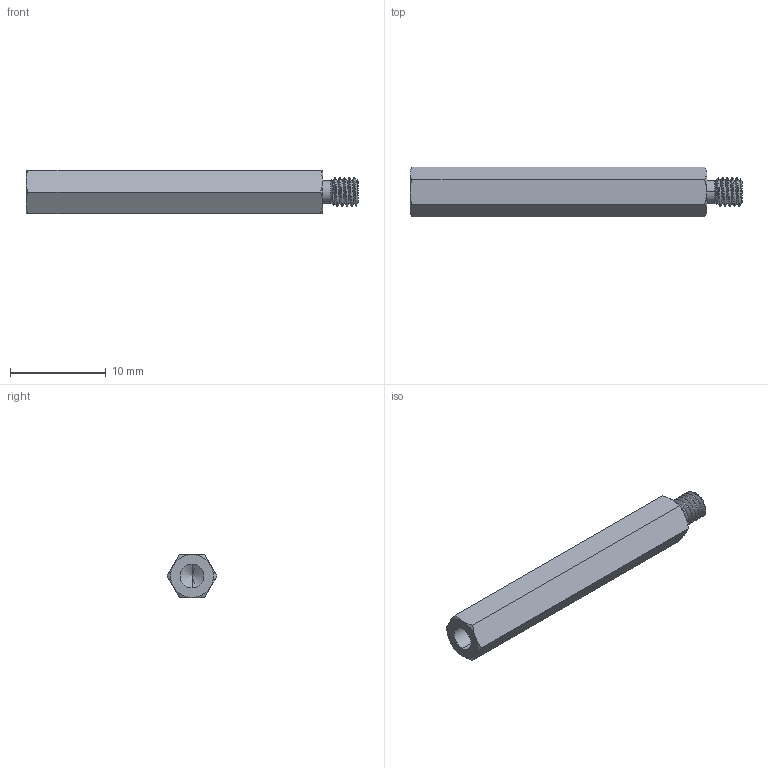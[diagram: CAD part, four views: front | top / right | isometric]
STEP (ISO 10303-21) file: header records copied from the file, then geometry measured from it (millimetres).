
FILE_DESCRIPTION (( 'STEP AP214' ), '1' );
FILE_NAME ('STANDOFF-M3X0.5-31-MF.STEP', '2019-05-21T22:26:31', ( '' ), ( '' ), 'SwSTEP 2.0', 'SolidWorks 2016', '' );
FILE_SCHEMA (( 'AUTOMOTIVE_DESIGN' ));
Length unit declared in the file: millimetre
Products named in the file (1): STANDOFF-M3X0.5-31-MF
Bounding box: 34.7 x 5.2 x 4.5 mm (x, y, z)
Volume: 530.3 mm3; surface area: 614.9 mm2
Topology: 1 solids, 1 shells, 44 faces, 107 edges, 65 vertices
Faces by surface type: cone 18, cylinder 14, plane 9, bspline 3
Entity records: 2397 total; most frequent: CARTESIAN_POINT 1472, ORIENTED_EDGE 210, DIRECTION 157, EDGE_CURVE 105, AXIS2_PLACEMENT_3D 66, VERTEX_POINT 65, EDGE_LOOP 46, ADVANCED_FACE 44
